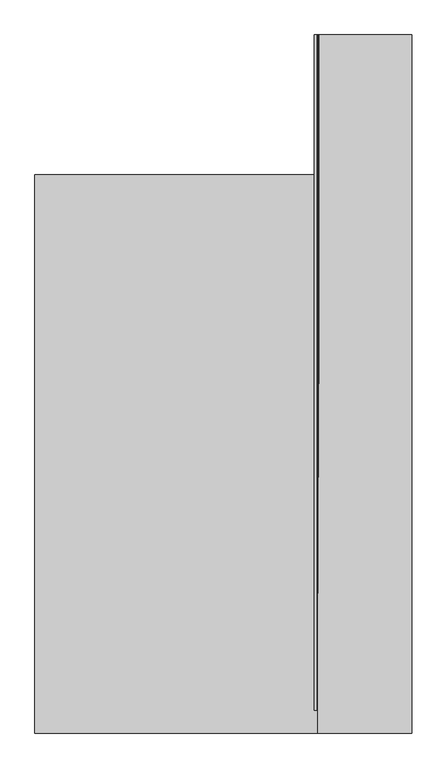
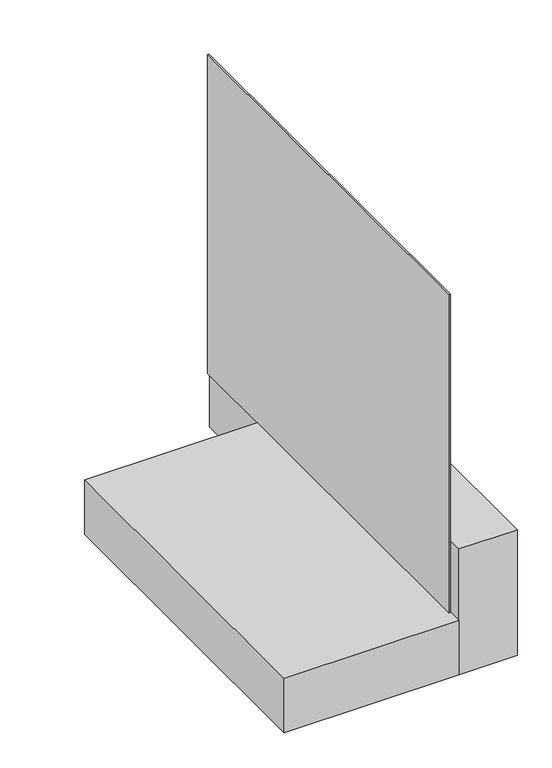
"""IFC4 building model written with IfcOpenShell, lengths in millimetres: proxy geometry, IMPER:IMPER:433934 : IMPER:IMPER:433934."""

from ifc_helpers import new_model, si_unit, point, frame, frame_2d, origin, place, context, project, spatial, polyline, circle_curve, trimmed, segment, composite_curve, outline, extrude, source, transform, mapped, element, save


def generic_models_85db5eae(model_context):
    return source(origin(), model_context, "Body", "SweptSolid", [
        extrude(outline(polyline([(-351.9704105, 145.8700195), (-341.9704105, 145.8700195), (-341.9704105, -2757.5097273), (-351.9704105, -2757.5097273), (-351.9704105, 145.8700195)])), frame((0.0, 0.0, -2.523798), z_axis=(0.0, 0.0, 1.0), x_axis=(1.0, 0.0, 0.0)), (0.0, 0.0, 1.0), 2339.8268348),
        extrude(outline(polyline([(-336.9315394, -2854.1299805), (-1552.7804486, -2854.1299805), (-1552.7804486, -454.1299805), (-336.9315394, -454.1299805), (-336.9315394, -2854.1299805)])), frame((0.0, 0.0, -402.523798), z_axis=(0.0, 0.0, 1.0), x_axis=(1.0, 0.0, 0.0)), (0.0, 0.0, 1.0), 400.0),
        extrude(outline(polyline([(67.0408996, -2854.1299805), (-336.9315394, -2854.1299805), (-336.9315394, 145.8700195), (67.0408996, 145.8700195), (67.0408996, -2854.1299805)])), frame((0.0, 0.0, -402.523798), z_axis=(0.0, 0.0, 1.0), x_axis=(1.0, 0.0, 0.0)), (0.0, 0.0, 1.0), 923.3418813),
        extrude(outline(composite_curve([segment(polyline([(1063.6239853, -335.9591004), (-2.523798, -335.9591004)]), True, "CONTINUOUS"), segment(trimmed(circle_curve(frame_2d((-2.523798, -325.9591004)), 10.0), [point((-2.523798, -335.9591004))], [point((-2.523798, -315.9591004))], False, "CARTESIAN"), True, "CONTINUOUS"), segment(trimmed(circle_curve(frame_2d((-2.523798, -322.4800762)), 6.5209758), [point((-2.523798, -315.9591004))], [point((-2.523798, -329.001052))], False, "CARTESIAN"), True, "CONTINUOUS"), segment(trimmed(circle_curve(frame_2d((-2.523798, -325.7405641)), 3.2604879), [point((-2.523798, -329.001052))], [point((-2.523798, -322.4800762))], False, "CARTESIAN"), True, "CONTINUOUS"), segment(polyline([(-2.523798, -322.4800762), (-2.523798, -325.4800762)]), True, "CONTINUOUS"), segment(trimmed(circle_curve(frame_2d((-2.523798, -325.7405641)), 0.2604879), [point((-2.523798, -325.4800762))], [point((-2.523798, -326.001052))], True, "CARTESIAN"), True, "CONTINUOUS"), segment(trimmed(circle_curve(frame_2d((-2.523798, -322.4800762)), 3.5209758), [point((-2.523798, -326.001052))], [point((-2.523798, -318.9591004))], True, "CARTESIAN"), True, "CONTINUOUS"), segment(trimmed(circle_curve(frame_2d((-2.523798, -325.9591004)), 7.0), [point((-2.523798, -318.9591004))], [point((-2.523798, -332.9591004))], True, "CARTESIAN"), True, "CONTINUOUS"), segment(polyline([(-2.523798, -332.9591004), (1063.6239853, -332.9591004), (1063.6239853, -335.9591004)]), True, "CONTINUOUS")], self_intersect=False)), frame((0.0, -1354.1299805, 0.0), z_axis=(0.0, 1.0, 0.0), x_axis=(0.0, 0.0, 1.0)), (0.0, 0.0, 1.0), 1500.0),
        extrude(outline(polyline([(-340.9315394, 145.8700195), (-340.9315394, -2554.1299805), (-341.9704105, -2554.1299805), (-341.9704105, 145.8700195), (-340.9315394, 145.8700195)])), frame((0.0, 0.0, -2.523798), z_axis=(0.0, 0.0, 1.0), x_axis=(1.0, 0.0, 0.0)), (0.0, 0.0, 1.0), 2181.3853269),
        extrude(outline(polyline([(-336.9315394, 145.8700195), (-336.9315394, -2254.1299805), (-340.9315394, -2254.1299805), (-340.9315394, 145.8700195), (-336.9315394, 145.8700195)])), frame((0.0, 0.0, -2.523798), z_axis=(0.0, 0.0, 1.0), x_axis=(1.0, 0.0, 0.0)), (0.0, 0.0, 1.0), 1965.7083629),
        extrude(outline(polyline([(-335.9591004, 145.8700195), (-335.9591004, -1754.1299805), (-336.9315394, -1754.1299805), (-336.9315394, 145.8700195), (-335.9591004, 145.8700195)])), frame((0.0, 0.0, -2.523798), z_axis=(0.0, 0.0, 1.0), x_axis=(1.0, 0.0, 0.0)), (0.0, 0.0, 1.0), 1548.1528029),
    ])


if __name__ == "__main__":
    model = new_model("IFC4")
    model_context = context("Model", 3, world=origin())
    ifc_project = project(units=[si_unit("LENGTHUNIT", "METRE", prefix="MILLI")], contexts=[model_context])
    site = spatial("IfcSite", under=ifc_project)
    building = spatial("IfcBuilding", under=site)
    placement = place(None, origin())
    generic_models_shape = generic_models_85db5eae(model_context)
    element("IfcBuildingElementProxy", 1, Name="IMPER:IMPER:433934 : IMPER:IMPER:433934", ObjectType="IMPER:IMPER:433934 : IMPER:IMPER:433934", at=placement, inside=building, context=model_context, shape_type="MappedRepresentation", body=[
        mapped(generic_models_shape, transform((0.0, 0.0, 0.0), x_axis=(1.0, 0.0, 0.0), y_axis=(0.0, 1.0, 0.0), z_axis=(0.0, 0.0, 1.0))),
    ])
    save(model, "model.ifc")
